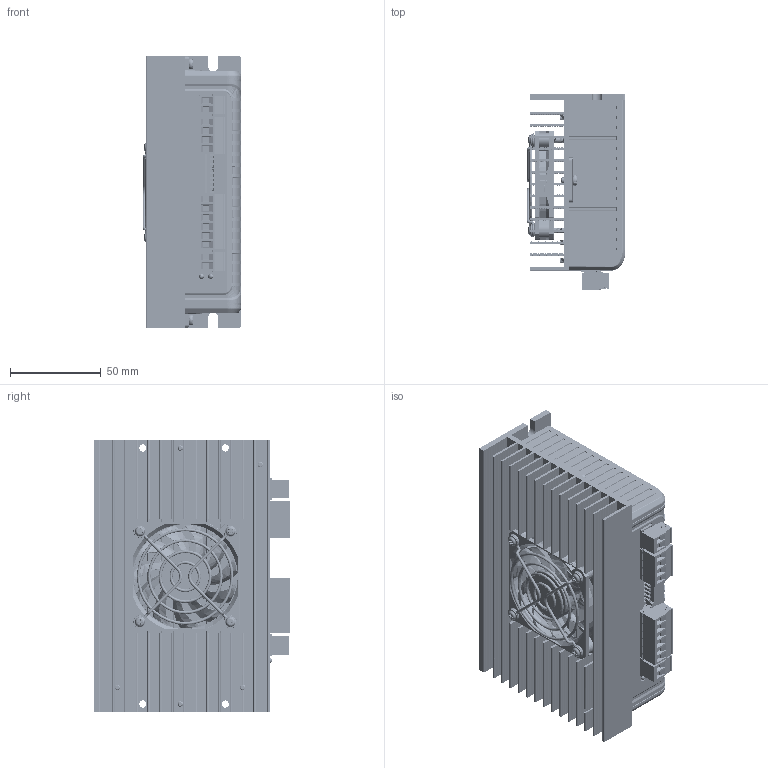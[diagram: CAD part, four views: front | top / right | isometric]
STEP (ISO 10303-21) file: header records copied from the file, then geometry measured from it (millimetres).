
FILE_DESCRIPTION (( 'STEP AP214' ), '1' );
FILE_NAME ('2DM860H.STEP', '2018-01-11T10:31:42', ( '' ), ( '' ), 'SwSTEP 2.0', 'SolidWorks 2016', '' );
FILE_SCHEMA (( 'AUTOMOTIVE_DESIGN' ));
Length unit declared in the file: millimetre
Products named in the file (20): M3; M3x6埴芛蹟佪; RJ21; 60x60x10FAN; 86散热器; 2HSS86 PCB; 埴芛湍簽M3x20; 60FAN GUARD; SW ERD116RSZ coder; 5.08 2way; Switch-Piano-DIP-4; 2DM860H; Dip_Switch_Piano_8ways; two led; MSTB 2,5-4-G-5,08; MSTB 2,5-6-G-5,08; 5.08 4way; 5.08 6way; 2DM860H裔赽; TB5_08-2R
Assembly tree (27 placements, depth 2):
  2DM860H
    86散热器
    M3  x3
    2HSS86 PCB
    60x60x10FAN
    60FAN GUARD
    埴芛湍簽M3x20  x4
    TB5_08-2R  x2
    MSTB 2,5-6-G-5,08
    MSTB 2,5-4-G-5,08
    two led
    Dip_Switch_Piano_8ways
    RJ21
    5.08 2way  x2
    5.08 4way
    5.08 6way
    2DM860H裔赽
    Switch-Piano-DIP-4
    SW ERD116RSZ coder
    M3x6埴芛蹟佪  x2
Bounding box: 54.6 x 108.5 x 150 mm (x, y, z)
Volume: 173650.9 mm3; surface area: 219315 mm2
Topology: 18 solids, 83 shells, 7471 faces, 20904 edges, 13453 vertices
Faces by surface type: plane 3949, cylinder 1980, bspline 1158, torus 231, cone 100, sphere 53
Entity records: 333460 total; most frequent: CARTESIAN_POINT 127974, ORIENTED_EDGE 35819, DIRECTION 28873, EDGE_CURVE 18638, VERTEX_POINT 12038, VECTOR 11187, LINE 11187, AXIS2_PLACEMENT_3D 8843
